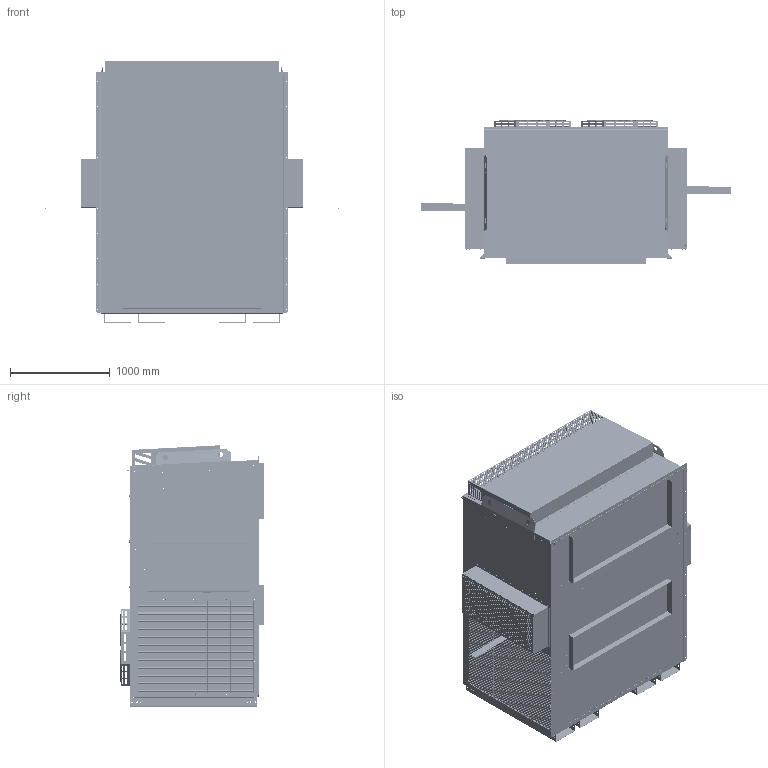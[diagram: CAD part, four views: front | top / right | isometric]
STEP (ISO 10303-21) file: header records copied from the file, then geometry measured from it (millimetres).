
FILE_DESCRIPTION (( 'STEP AP214' ), '1' );
FILE_NAME ('CFA3 180 RF ECONO - B2.STEP', '2022-05-19T20:35:05', ( '' ), ( '' ), 'SwSTEP 2.0', 'SolidWorks 2020', '' );
FILE_SCHEMA (( 'AUTOMOTIVE_DESIGN' ));
Length unit declared in the file: inch
Products named in the file (72): FRAME^80987; MD09449; SD12422; MD12432; MD09526; BRACKET^80987; MD12321; SEAL, UPPER^80987; MD12301; MD09563; SML23012X; 90857 LARGE LOOP; MD12433; MD12292; MD09986; 90857; MD12337; 30196_608910; 80987; ND04240; MD12337_MD12337; BLADE^80987; 91039; MD09541; LIP^40255-CLAMP; SD12421; MD09987; BRACKET^40255-CLAMP; MD09505; d30144; BLADE PIN^80987; 92299^SD12422; MD12319; MD09503; NUT^40255-CLAMP; MD12293; MD12318; SEAL, LOWER^80987; 40255-CLAMP; MD12300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
Assembly tree (125 placements, depth 6):
  CFA3 180 RF ECONO - B2
    MD09449
    MD09503
    MD09504
    MD09505  x3
    MD09518  x4
    MD09526
    MD09541
    MD09563  x2
    MD09978
    MD09986
    MD09987
    MD12292_MD12292-IN
      MD12292
      ND03364
      ND04240
    MD12293
    MD12295_MD12295  x2
      MD12295
    MD12300_MD12300
      MD12300
    MD12301_MD12301
      MD12301
    MD12337_MD12337
      MD12337
    MD12429_MD12429
      MD12429
    SD12421
      MD12431
      MD12432
      MD12433
      92299^SD12421
    SD12422  x2
      MD12316
      MD12317
      MD12318
      MD12319
      MD12320
      MD12321
      80987
        FRAME^80987
        BLADE^80987  x2
        BLADE PIN^80987  x2
        SEAL, LOWER^80987
        SEAL, UPPER^80987
        40255_WITH CLAMP, NO MTG TAB
          40255-MOTOR
          40255-CLAMP
            BRACKET^40255-CLAMP
            STRAP^40255-CLAMP
            NUT^40255-CLAMP  x2
            LIP^40255-CLAMP
        BRACKET^80987
        40258-BRACKET_40255-BRACKET
      93187
      92299^SD12422
      90740_THREADS
    60309
    60310
    90857  x2
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Bounding box: 3104.83 x 1437.98 x 2617.83 mm (x, y, z)
Volume: 265084327 mm3; surface area: 79032402.5 mm2
Topology: 443 solids, 535 shells, 28556 faces, 75953 edges, 47731 vertices
Faces by surface type: plane 13533, cylinder 9741, bspline 3292, cone 1474, torus 352, sphere 164
Entity records: 756849 total; most frequent: CARTESIAN_POINT 286292, ORIENTED_EDGE 84512, DIRECTION 76773, EDGE_CURVE 42311, VERTEX_POINT 26913, VECTOR 25713, LINE 25713, AXIS2_PLACEMENT_3D 25530
